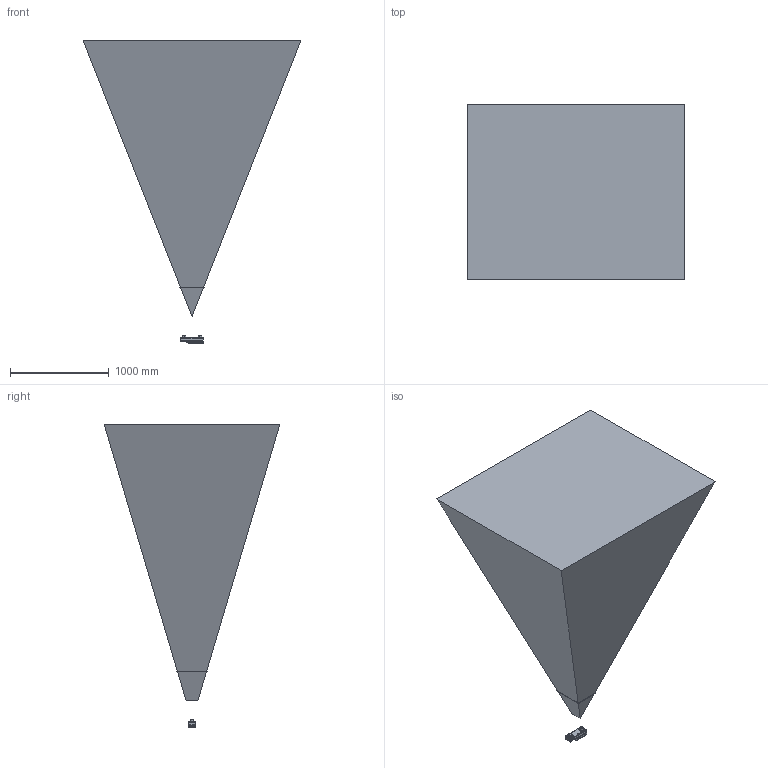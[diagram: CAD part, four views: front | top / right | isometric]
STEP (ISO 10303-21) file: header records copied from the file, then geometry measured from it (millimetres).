
FILE_DESCRIPTION((''),'2;1');
FILE_NAME('RC_VISARD160_6_VIS_ASM','2022-07-18T09:54:42',('seibold'),(''),'CREO PARAMETRIC BY PTC INC, 2018500','CREO PARAMETRIC BY PTC INC, 2018500','');
FILE_SCHEMA(('AUTOMOTIVE_DESIGN { 1 0 10303 214 1 1 1 1 }'));
Products named in the file (7): RC_VISARD160; RC_VISARD160_6_VISPYRAMID; KT_PHOENIX_H01; KT_PHOENIX_1412080; KT_PHOENIX_M12FS-8P_1411953; KT_PHOENIX_M12MS-8P_1411959; RC_VISARD160_6_VIS_ASM
Assembly tree (6 placements, depth 2):
  RC_VISARD160_6_VIS_ASM
    RC_VISARD160
    RC_VISARD160_6_VISPYRAMID
    KT_PHOENIX_H01
    KT_PHOENIX_1412080
    KT_PHOENIX_M12FS-8P_1411953
    KT_PHOENIX_M12MS-8P_1411959
Bounding box: 2203.46 x 1777.28 x 3066 mm (x, y, z)
Volume: 300975.7 mm3; surface area: 16240105.8 mm2
Topology: 5 solids, 7 shells, 3039 faces, 8124 edges, 5276 vertices
Faces by surface type: plane 2042, cylinder 539, cone 164, extrusion 155, torus 89, bspline 50
Entity records: 132396 total; most frequent: CARTESIAN_POINT 25783, ORIENTED_EDGE 16228, DIRECTION 14736, PRESENTATION_STYLE_ASSIGNMENT 8325, EDGE_CURVE 8118, STYLED_ITEM 7735, CURVE_STYLE 7725, VECTOR 6170
